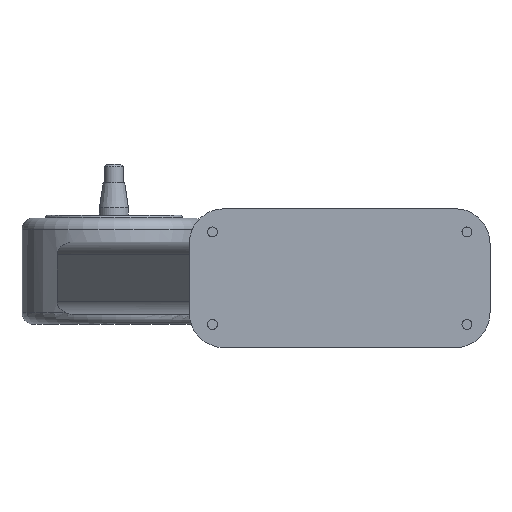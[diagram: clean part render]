
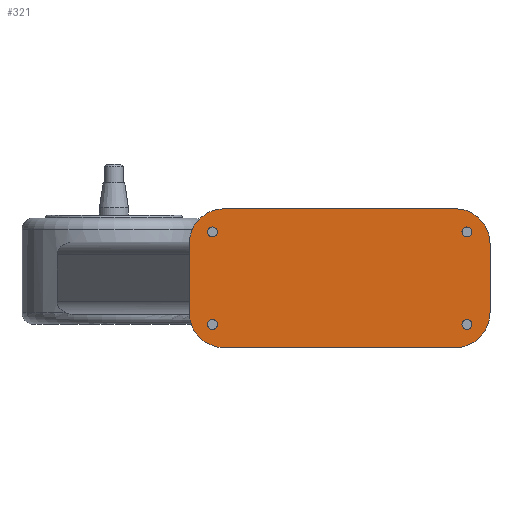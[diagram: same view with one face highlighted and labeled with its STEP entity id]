
A CAD part, front view. The second image highlights one B-rep face of the part: STEP entity #321.
In plain terms, the highlighted planar face has unit normal (0, -1, 0).
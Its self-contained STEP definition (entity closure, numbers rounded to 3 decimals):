
#3 = CARTESIAN_POINT ( 'NONE',  ( -114.992, 0., -40. ) ) ;
#39 = CIRCLE ( 'NONE', #1176, 4.25 ) ;
#56 = DIRECTION ( 'NONE',  ( 1., 0., 0. ) ) ;
#60 = DIRECTION ( 'NONE',  ( 0., -1., 0. ) ) ;
#68 = CARTESIAN_POINT ( 'NONE',  ( -114.992, 0., -40. ) ) ;
#111 = ORIENTED_EDGE ( 'NONE', *, *, #181, .F. ) ;
#112 = CARTESIAN_POINT ( 'NONE',  ( -104.992, 0., 60. ) ) ;
#119 = VERTEX_POINT ( 'NONE', #698 ) ;
#139 = ORIENTED_EDGE ( 'NONE', *, *, #341, .T. ) ;
#152 = CIRCLE ( 'NONE', #688, 4.25 ) ;
#164 = DIRECTION ( 'NONE',  ( 1., 0., 0. ) ) ;
#168 = CARTESIAN_POINT ( 'NONE',  ( 109.258, 0., -40. ) ) ;
#181 = EDGE_CURVE ( 'NONE', #735, #578, #988, .T. ) ;
#200 = CARTESIAN_POINT ( 'NONE',  ( -104.992, 0., 30. ) ) ;
#201 = VERTEX_POINT ( 'NONE', #568 ) ;
#228 = DIRECTION ( 'NONE',  ( 0., -1., 0. ) ) ;
#230 = CARTESIAN_POINT ( 'NONE',  ( 105.008, 0., 40. ) ) ;
#234 = EDGE_LOOP ( 'NONE', ( #111, #1699 ) ) ;
#254 = CARTESIAN_POINT ( 'NONE',  ( -119.242, 0., -40. ) ) ;
#262 = EDGE_CURVE ( 'NONE', #2086, #119, #1836, .T. ) ;
#321 = ADVANCED_FACE ( 'NONE', ( #1723, #2121, #756, #1661, #1190 ), #1013, .F. ) ;
#341 = EDGE_CURVE ( 'NONE', #2201, #201, #652, .T. ) ;
#353 = ORIENTED_EDGE ( 'NONE', *, *, #1613, .F. ) ;
#361 = EDGE_CURVE ( 'NONE', #201, #1932, #1553, .T. ) ;
#370 = LINE ( 'NONE', #1446, #1755 ) ;
#384 = CARTESIAN_POINT ( 'NONE',  ( -104.992, 0., -30. ) ) ;
#413 = CARTESIAN_POINT ( 'NONE',  ( 125.008, 0., 30. ) ) ;
#438 = EDGE_CURVE ( 'NONE', #1839, #1611, #1129, .T. ) ;
#445 = VERTEX_POINT ( 'NONE', #657 ) ;
#447 = ORIENTED_EDGE ( 'NONE', *, *, #2041, .F. ) ;
#529 = AXIS2_PLACEMENT_3D ( 'NONE', #2267, #1452, #1162 ) ;
#535 = EDGE_CURVE ( 'NONE', #445, #713, #784, .T. ) ;
#568 = CARTESIAN_POINT ( 'NONE',  ( -104.992, 0., -60. ) ) ;
#570 = AXIS2_PLACEMENT_3D ( 'NONE', #3, #2251, #1332 ) ;
#578 = VERTEX_POINT ( 'NONE', #254 ) ;
#580 = ORIENTED_EDGE ( 'NONE', *, *, #1036, .F. ) ;
#628 = AXIS2_PLACEMENT_3D ( 'NONE', #1048, #764, #631 ) ;
#631 = DIRECTION ( 'NONE',  ( -1., 0., 0. ) ) ;
#652 = CIRCLE ( 'NONE', #2222, 30. ) ;
#657 = CARTESIAN_POINT ( 'NONE',  ( 100.758, 0., -40. ) ) ;
#688 = AXIS2_PLACEMENT_3D ( 'NONE', #230, #228, #164 ) ;
#695 = CARTESIAN_POINT ( 'NONE',  ( -134.992, 0., -60. ) ) ;
#698 = CARTESIAN_POINT ( 'NONE',  ( -134.992, 0., 30. ) ) ;
#713 = VERTEX_POINT ( 'NONE', #168 ) ;
#735 = VERTEX_POINT ( 'NONE', #2308 ) ;
#744 = AXIS2_PLACEMENT_3D ( 'NONE', #807, #791, #788 ) ;
#756 = FACE_BOUND ( 'NONE', #1022, .T. ) ;
#764 = DIRECTION ( 'NONE',  ( 0., -1., 0. ) ) ;
#765 = DIRECTION ( 'NONE',  ( 0., 0., -1. ) ) ;
#766 = ORIENTED_EDGE ( 'NONE', *, *, #1885, .T. ) ;
#770 = AXIS2_PLACEMENT_3D ( 'NONE', #932, #886, #903 ) ;
#784 = CIRCLE ( 'NONE', #1123, 4.25 ) ;
#788 = DIRECTION ( 'NONE',  ( 1., 0., 0. ) ) ;
#791 = DIRECTION ( 'NONE',  ( 0., -1., 0. ) ) ;
#792 = VERTEX_POINT ( 'NONE', #2240 ) ;
#807 = CARTESIAN_POINT ( 'NONE',  ( 105.008, 0., 40. ) ) ;
#820 = CARTESIAN_POINT ( 'NONE',  ( 125.008, 0., 60. ) ) ;
#822 = EDGE_LOOP ( 'NONE', ( #580, #1895 ) ) ;
#844 = CARTESIAN_POINT ( 'NONE',  ( 95.008, 0., -60. ) ) ;
#886 = DIRECTION ( 'NONE',  ( 0., -1., 0. ) ) ;
#893 = CIRCLE ( 'NONE', #770, 4.25 ) ;
#903 = DIRECTION ( 'NONE',  ( 1., 0., 0. ) ) ;
#920 = CIRCLE ( 'NONE', #1351, 30. ) ;
#925 = AXIS2_PLACEMENT_3D ( 'NONE', #200, #1090, #2028 ) ;
#932 = CARTESIAN_POINT ( 'NONE',  ( -114.992, 0., 40. ) ) ;
#945 = DIRECTION ( 'NONE',  ( 0., 0., -1. ) ) ;
#959 = DIRECTION ( 'NONE',  ( -1., 0., 0. ) ) ;
#963 = DIRECTION ( 'NONE',  ( 0., -1., 0. ) ) ;
#966 = CARTESIAN_POINT ( 'NONE',  ( 95.008, 0., 30. ) ) ;
#970 = ORIENTED_EDGE ( 'NONE', *, *, #1193, .F. ) ;
#988 = CIRCLE ( 'NONE', #570, 4.25 ) ;
#998 = CARTESIAN_POINT ( 'NONE',  ( 125.008, 0., -30. ) ) ;
#1013 = PLANE ( 'NONE',  #2006 ) ;
#1018 = CARTESIAN_POINT ( 'NONE',  ( 109.258, 0., 40. ) ) ;
#1022 = EDGE_LOOP ( 'NONE', ( #447, #970 ) ) ;
#1036 = EDGE_CURVE ( 'NONE', #713, #445, #1804, .T. ) ;
#1048 = CARTESIAN_POINT ( 'NONE',  ( 95.008, 0., -30. ) ) ;
#1060 = CARTESIAN_POINT ( 'NONE',  ( -119.242, 0., 40. ) ) ;
#1075 = CARTESIAN_POINT ( 'NONE',  ( 100.758, 0., 40. ) ) ;
#1076 = DIRECTION ( 'NONE',  ( -1., 0., 0. ) ) ;
#1090 = DIRECTION ( 'NONE',  ( 0., -1., 0. ) ) ;
#1123 = AXIS2_PLACEMENT_3D ( 'NONE', #1860, #1172, #1800 ) ;
#1125 = CARTESIAN_POINT ( 'NONE',  ( -110.742, 0., 40. ) ) ;
#1129 = CIRCLE ( 'NONE', #529, 4.25 ) ;
#1136 = CARTESIAN_POINT ( 'NONE',  ( -134.992, 0., 60. ) ) ;
#1157 = EDGE_CURVE ( 'NONE', #1932, #2244, #1191, .T. ) ;
#1162 = DIRECTION ( 'NONE',  ( 1., 0., 0. ) ) ;
#1166 = ORIENTED_EDGE ( 'NONE', *, *, #1157, .T. ) ;
#1172 = DIRECTION ( 'NONE',  ( 0., -1., 0. ) ) ;
#1176 = AXIS2_PLACEMENT_3D ( 'NONE', #68, #60, #56 ) ;
#1190 = FACE_OUTER_BOUND ( 'NONE', #1820, .T. ) ;
#1191 = CIRCLE ( 'NONE', #628, 30. ) ;
#1193 = EDGE_CURVE ( 'NONE', #1878, #1903, #2076, .T. ) ;
#1236 = DIRECTION ( 'NONE',  ( 1., 0., 0. ) ) ;
#1255 = ORIENTED_EDGE ( 'NONE', *, *, #438, .F. ) ;
#1270 = CARTESIAN_POINT ( 'NONE',  ( -134.992, 0., 60. ) ) ;
#1332 = DIRECTION ( 'NONE',  ( 1., 0., 0. ) ) ;
#1339 = DIRECTION ( 'NONE',  ( 1., 0., 0. ) ) ;
#1351 = AXIS2_PLACEMENT_3D ( 'NONE', #966, #963, #959 ) ;
#1364 = DIRECTION ( 'NONE',  ( 0., -1., 0. ) ) ;
#1366 = EDGE_CURVE ( 'NONE', #2086, #792, #370, .T. ) ;
#1377 = CARTESIAN_POINT ( 'NONE',  ( 105.008, 0., -40. ) ) ;
#1381 = ORIENTED_EDGE ( 'NONE', *, *, #361, .T. ) ;
#1414 = DIRECTION ( 'NONE',  ( 1., 0., 0. ) ) ;
#1446 = CARTESIAN_POINT ( 'NONE',  ( -134.992, 0., 60. ) ) ;
#1450 = EDGE_LOOP ( 'NONE', ( #1255, #353 ) ) ;
#1452 = DIRECTION ( 'NONE',  ( 0., -1., 0. ) ) ;
#1484 = ORIENTED_EDGE ( 'NONE', *, *, #1930, .F. ) ;
#1499 = ORIENTED_EDGE ( 'NONE', *, *, #262, .T. ) ;
#1533 = DIRECTION ( 'NONE',  ( 0., 1., 0. ) ) ;
#1553 = LINE ( 'NONE', #695, #2023 ) ;
#1561 = ORIENTED_EDGE ( 'NONE', *, *, #1366, .F. ) ;
#1595 = EDGE_CURVE ( 'NONE', #119, #2201, #1859, .T. ) ;
#1611 = VERTEX_POINT ( 'NONE', #1060 ) ;
#1613 = EDGE_CURVE ( 'NONE', #1611, #1839, #893, .T. ) ;
#1661 = FACE_BOUND ( 'NONE', #1450, .T. ) ;
#1665 = ORIENTED_EDGE ( 'NONE', *, *, #1595, .T. ) ;
#1699 = ORIENTED_EDGE ( 'NONE', *, *, #2092, .F. ) ;
#1710 = VECTOR ( 'NONE', #765, 1000. ) ;
#1723 = FACE_BOUND ( 'NONE', #234, .T. ) ;
#1742 = DIRECTION ( 'NONE',  ( 0., -1., 0. ) ) ;
#1755 = VECTOR ( 'NONE', #1414, 1000. ) ;
#1800 = DIRECTION ( 'NONE',  ( 1., 0., 0. ) ) ;
#1804 = CIRCLE ( 'NONE', #1991, 4.25 ) ;
#1820 = EDGE_LOOP ( 'NONE', ( #1381, #1166, #1484, #766, #1561, #1499, #1665, #139 ) ) ;
#1836 = CIRCLE ( 'NONE', #925, 30. ) ;
#1839 = VERTEX_POINT ( 'NONE', #1125 ) ;
#1842 = CARTESIAN_POINT ( 'NONE',  ( -134.992, 0., -30. ) ) ;
#1859 = LINE ( 'NONE', #1136, #2291 ) ;
#1860 = CARTESIAN_POINT ( 'NONE',  ( 105.008, 0., -40. ) ) ;
#1878 = VERTEX_POINT ( 'NONE', #1075 ) ;
#1885 = EDGE_CURVE ( 'NONE', #2035, #792, #920, .T. ) ;
#1895 = ORIENTED_EDGE ( 'NONE', *, *, #535, .F. ) ;
#1903 = VERTEX_POINT ( 'NONE', #1018 ) ;
#1930 = EDGE_CURVE ( 'NONE', #2035, #2244, #2162, .T. ) ;
#1932 = VERTEX_POINT ( 'NONE', #844 ) ;
#1991 = AXIS2_PLACEMENT_3D ( 'NONE', #1377, #1364, #1339 ) ;
#2006 = AXIS2_PLACEMENT_3D ( 'NONE', #1270, #1533, #2145 ) ;
#2023 = VECTOR ( 'NONE', #1236, 1000. ) ;
#2028 = DIRECTION ( 'NONE',  ( -1., 0., 0. ) ) ;
#2035 = VERTEX_POINT ( 'NONE', #413 ) ;
#2041 = EDGE_CURVE ( 'NONE', #1903, #1878, #152, .T. ) ;
#2076 = CIRCLE ( 'NONE', #744, 4.25 ) ;
#2086 = VERTEX_POINT ( 'NONE', #112 ) ;
#2092 = EDGE_CURVE ( 'NONE', #578, #735, #39, .T. ) ;
#2121 = FACE_BOUND ( 'NONE', #822, .T. ) ;
#2145 = DIRECTION ( 'NONE',  ( -1., 0., 0. ) ) ;
#2162 = LINE ( 'NONE', #820, #1710 ) ;
#2201 = VERTEX_POINT ( 'NONE', #1842 ) ;
#2222 = AXIS2_PLACEMENT_3D ( 'NONE', #384, #1742, #1076 ) ;
#2240 = CARTESIAN_POINT ( 'NONE',  ( 95.008, 0., 60. ) ) ;
#2244 = VERTEX_POINT ( 'NONE', #998 ) ;
#2251 = DIRECTION ( 'NONE',  ( 0., -1., 0. ) ) ;
#2267 = CARTESIAN_POINT ( 'NONE',  ( -114.992, 0., 40. ) ) ;
#2291 = VECTOR ( 'NONE', #945, 1000. ) ;
#2308 = CARTESIAN_POINT ( 'NONE',  ( -110.742, 0., -40. ) ) ;
